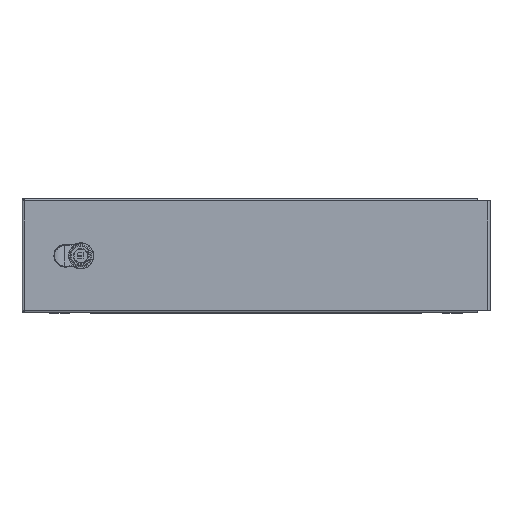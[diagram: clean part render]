
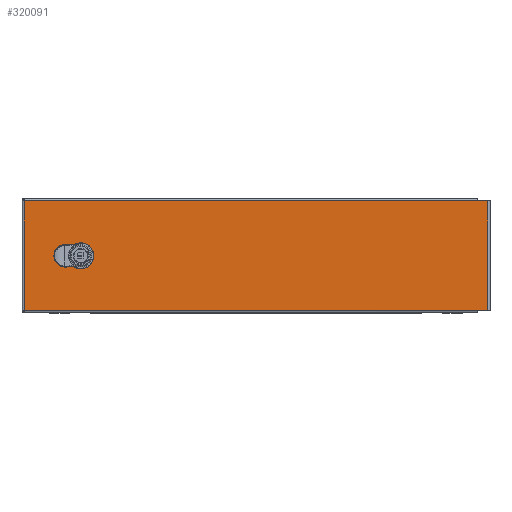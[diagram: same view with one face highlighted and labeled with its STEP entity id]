
A CAD part, top view. The second image highlights one B-rep face of the part: STEP entity #320091.
In plain terms, the highlighted planar face has unit normal (0, 0, 1).
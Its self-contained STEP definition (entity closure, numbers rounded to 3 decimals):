
#317256=CARTESIAN_POINT(' ',(276.189,122.733,179.253));
#317257=VERTEX_POINT(' ',#317256);
#318986=CARTESIAN_POINT(' ',(276.189,122.733,179.253));
#318991=DIRECTION(' ',(-1.,0.,0.));
#318996=VECTOR(' ',#318991,1.);
#319001=LINE('',#318986,#318996);
#319006=CARTESIAN_POINT(' ',(-299.011,122.733,179.253));
#319007=VERTEX_POINT(' ',#319006);
#319011=EDGE_CURVE(' ',#317257,#319007,#319001,.T.);
#319311=CARTESIAN_POINT(' ',(289.389,122.733,179.253));
#319316=DIRECTION(' ',(-1.,0.,0.));
#319321=VECTOR(' ',#319316,1.);
#319326=LINE('',#319311,#319321);
#319331=CARTESIAN_POINT(' ',(289.389,122.733,179.253));
#319332=VERTEX_POINT(' ',#319331);
#319336=EDGE_CURVE(' ',#319332,#317257,#319326,.T.);
#319911=DIRECTION(' ',(-0.,-0.,1.));
#319916=CARTESIAN_POINT(' ',(289.389,-16.667,179.253));
#319921=DIRECTION(' ',(0.,1.,0.));
#319926=AXIS2_PLACEMENT_3D(' ',#319916,#319911,#319921);
#319931=PLANE('NONE',#319926);
#319936=CARTESIAN_POINT(' ',(-299.011,-16.667,179.253));
#319941=DIRECTION(' ',(1.,0.,0.));
#319946=VECTOR(' ',#319941,1.);
#319951=LINE('',#319936,#319946);
#319956=CARTESIAN_POINT(' ',(-299.011,-16.667,179.253));
#319957=VERTEX_POINT(' ',#319956);
#319961=CARTESIAN_POINT(' ',(276.189,-16.667,179.253));
#319962=VERTEX_POINT(' ',#319961);
#319966=EDGE_CURVE(' ',#319957,#319962,#319951,.T.);
#319971=ORIENTED_EDGE(' ',*,*,#319966,.T.);
#319976=CARTESIAN_POINT(' ',(276.189,-16.667,179.253));
#319981=DIRECTION(' ',(1.,0.,0.));
#319986=VECTOR(' ',#319981,1.);
#319991=LINE('',#319976,#319986);
#319996=CARTESIAN_POINT(' ',(289.389,-16.667,179.253));
#319997=VERTEX_POINT(' ',#319996);
#320001=EDGE_CURVE(' ',#319962,#319997,#319991,.T.);
#320006=ORIENTED_EDGE(' ',*,*,#320001,.T.);
#320011=CARTESIAN_POINT(' ',(289.389,122.733,179.253));
#320016=DIRECTION(' ',(0.,-1.,0.));
#320021=VECTOR(' ',#320016,1.);
#320026=LINE('',#320011,#320021);
#320031=EDGE_CURVE(' ',#319332,#319997,#320026,.T.);
#320036=ORIENTED_EDGE(' ',*,*,#320031,.F.);
#320041=ORIENTED_EDGE(' ',*,*,#319336,.T.);
#320046=ORIENTED_EDGE(' ',*,*,#319011,.T.);
#320051=CARTESIAN_POINT(' ',(-299.011,122.733,179.253));
#320056=DIRECTION(' ',(0.,-1.,0.));
#320061=VECTOR(' ',#320056,1.);
#320066=LINE('',#320051,#320061);
#320071=EDGE_CURVE(' ',#319007,#319957,#320066,.T.);
#320076=ORIENTED_EDGE(' ',*,*,#320071,.T.);
#320081=EDGE_LOOP(' ',(#319971,#320006,#320036,#320041,#320046,#320076));
#320086=FACE_OUTER_BOUND(' ',#320081,.T.);
#320091=ADVANCED_FACE('NONE',(#320086),#319931,.T.);
